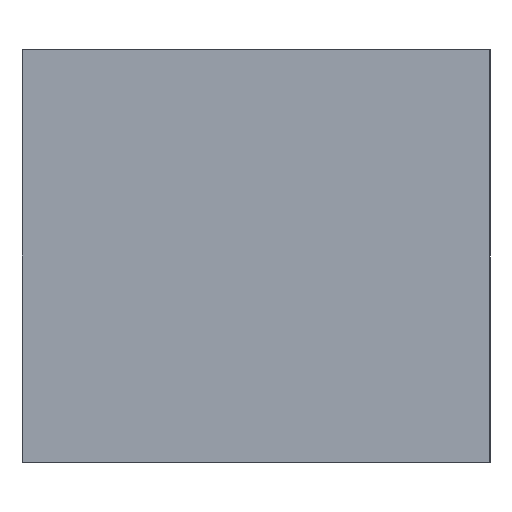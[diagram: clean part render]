
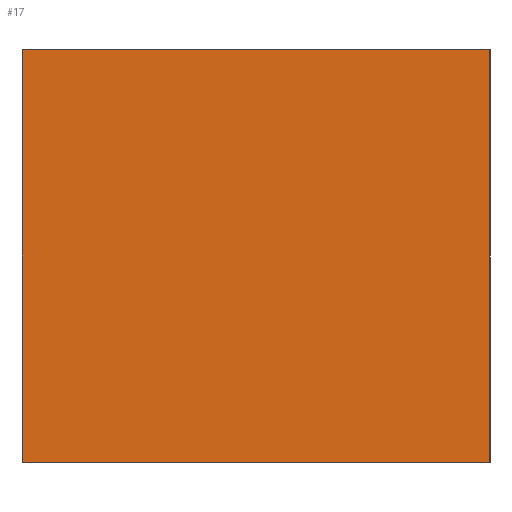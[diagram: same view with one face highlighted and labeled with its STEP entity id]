
A CAD part, left-side view. The second image highlights one B-rep face of the part: STEP entity #17.
In plain terms, the highlighted planar face has unit normal (-1, 0, 0).
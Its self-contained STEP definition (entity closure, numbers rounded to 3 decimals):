
#17 = ADVANCED_FACE('',(#18),#32,.F.);
#18 = FACE_BOUND('',#19,.F.);
#19 = EDGE_LOOP('',(#20,#55,#83,#111));
#20 = ORIENTED_EDGE('',*,*,#21,.F.);
#21 = EDGE_CURVE('',#22,#24,#26,.T.);
#22 = VERTEX_POINT('',#23);
#23 = CARTESIAN_POINT('',(-114.,-17.,4.));
#24 = VERTEX_POINT('',#25);
#25 = CARTESIAN_POINT('',(-114.,-17.,34.));
#26 = SURFACE_CURVE('',#27,(#31,#43),.PCURVE_S1.);
#27 = LINE('',#28,#29);
#28 = CARTESIAN_POINT('',(-114.,-17.,4.));
#29 = VECTOR('',#30,1.);
#30 = DIRECTION('',(0.,0.,1.));
#31 = PCURVE('',#32,#37);
#32 = PLANE('',#33);
#33 = AXIS2_PLACEMENT_3D('',#34,#35,#36);
#34 = CARTESIAN_POINT('',(-114.,-17.,4.));
#35 = DIRECTION('',(1.,0.,0.));
#36 = DIRECTION('',(0.,0.,1.));
#37 = DEFINITIONAL_REPRESENTATION('',(#38),#42);
#38 = LINE('',#39,#40);
#39 = CARTESIAN_POINT('',(0.,0.));
#40 = VECTOR('',#41,1.);
#41 = DIRECTION('',(1.,0.));
#42 = ( GEOMETRIC_REPRESENTATION_CONTEXT(2) 
PARAMETRIC_REPRESENTATION_CONTEXT() REPRESENTATION_CONTEXT('2D SPACE',''
  ) );
#43 = PCURVE('',#44,#49);
#44 = PLANE('',#45);
#45 = AXIS2_PLACEMENT_3D('',#46,#47,#48);
#46 = CARTESIAN_POINT('',(-114.,-17.,4.));
#47 = DIRECTION('',(0.,1.,0.));
#48 = DIRECTION('',(0.,0.,1.));
#49 = DEFINITIONAL_REPRESENTATION('',(#50),#54);
#50 = LINE('',#51,#52);
#51 = CARTESIAN_POINT('',(0.,0.));
#52 = VECTOR('',#53,1.);
#53 = DIRECTION('',(1.,0.));
#54 = ( GEOMETRIC_REPRESENTATION_CONTEXT(2) 
PARAMETRIC_REPRESENTATION_CONTEXT() REPRESENTATION_CONTEXT('2D SPACE',''
  ) );
#55 = ORIENTED_EDGE('',*,*,#56,.T.);
#56 = EDGE_CURVE('',#22,#57,#59,.T.);
#57 = VERTEX_POINT('',#58);
#58 = CARTESIAN_POINT('',(-114.,17.,4.));
#59 = SURFACE_CURVE('',#60,(#64,#71),.PCURVE_S1.);
#60 = LINE('',#61,#62);
#61 = CARTESIAN_POINT('',(-114.,-17.,4.));
#62 = VECTOR('',#63,1.);
#63 = DIRECTION('',(0.,1.,0.));
#64 = PCURVE('',#32,#65);
#65 = DEFINITIONAL_REPRESENTATION('',(#66),#70);
#66 = LINE('',#67,#68);
#67 = CARTESIAN_POINT('',(0.,0.));
#68 = VECTOR('',#69,1.);
#69 = DIRECTION('',(0.,-1.));
#70 = ( GEOMETRIC_REPRESENTATION_CONTEXT(2) 
PARAMETRIC_REPRESENTATION_CONTEXT() REPRESENTATION_CONTEXT('2D SPACE',''
  ) );
#71 = PCURVE('',#72,#77);
#72 = PLANE('',#73);
#73 = AXIS2_PLACEMENT_3D('',#74,#75,#76);
#74 = CARTESIAN_POINT('',(-114.,-17.,4.));
#75 = DIRECTION('',(0.,0.,1.));
#76 = DIRECTION('',(1.,0.,0.));
#77 = DEFINITIONAL_REPRESENTATION('',(#78),#82);
#78 = LINE('',#79,#80);
#79 = CARTESIAN_POINT('',(0.,0.));
#80 = VECTOR('',#81,1.);
#81 = DIRECTION('',(0.,1.));
#82 = ( GEOMETRIC_REPRESENTATION_CONTEXT(2) 
PARAMETRIC_REPRESENTATION_CONTEXT() REPRESENTATION_CONTEXT('2D SPACE',''
  ) );
#83 = ORIENTED_EDGE('',*,*,#84,.T.);
#84 = EDGE_CURVE('',#57,#85,#87,.T.);
#85 = VERTEX_POINT('',#86);
#86 = CARTESIAN_POINT('',(-114.,17.,34.));
#87 = SURFACE_CURVE('',#88,(#92,#99),.PCURVE_S1.);
#88 = LINE('',#89,#90);
#89 = CARTESIAN_POINT('',(-114.,17.,4.));
#90 = VECTOR('',#91,1.);
#91 = DIRECTION('',(0.,0.,1.));
#92 = PCURVE('',#32,#93);
#93 = DEFINITIONAL_REPRESENTATION('',(#94),#98);
#94 = LINE('',#95,#96);
#95 = CARTESIAN_POINT('',(0.,-34.));
#96 = VECTOR('',#97,1.);
#97 = DIRECTION('',(1.,0.));
#98 = ( GEOMETRIC_REPRESENTATION_CONTEXT(2) 
PARAMETRIC_REPRESENTATION_CONTEXT() REPRESENTATION_CONTEXT('2D SPACE',''
  ) );
#99 = PCURVE('',#100,#105);
#100 = PLANE('',#101);
#101 = AXIS2_PLACEMENT_3D('',#102,#103,#104);
#102 = CARTESIAN_POINT('',(-114.,17.,4.));
#103 = DIRECTION('',(0.,1.,0.));
#104 = DIRECTION('',(0.,0.,1.));
#105 = DEFINITIONAL_REPRESENTATION('',(#106),#110);
#106 = LINE('',#107,#108);
#107 = CARTESIAN_POINT('',(0.,0.));
#108 = VECTOR('',#109,1.);
#109 = DIRECTION('',(1.,0.));
#110 = ( GEOMETRIC_REPRESENTATION_CONTEXT(2) 
PARAMETRIC_REPRESENTATION_CONTEXT() REPRESENTATION_CONTEXT('2D SPACE',''
  ) );
#111 = ORIENTED_EDGE('',*,*,#112,.F.);
#112 = EDGE_CURVE('',#24,#85,#113,.T.);
#113 = SURFACE_CURVE('',#114,(#118,#125),.PCURVE_S1.);
#114 = LINE('',#115,#116);
#115 = CARTESIAN_POINT('',(-114.,-17.,34.));
#116 = VECTOR('',#117,1.);
#117 = DIRECTION('',(0.,1.,0.));
#118 = PCURVE('',#32,#119);
#119 = DEFINITIONAL_REPRESENTATION('',(#120),#124);
#120 = LINE('',#121,#122);
#121 = CARTESIAN_POINT('',(30.,0.));
#122 = VECTOR('',#123,1.);
#123 = DIRECTION('',(0.,-1.));
#124 = ( GEOMETRIC_REPRESENTATION_CONTEXT(2) 
PARAMETRIC_REPRESENTATION_CONTEXT() REPRESENTATION_CONTEXT('2D SPACE',''
  ) );
#125 = PCURVE('',#126,#131);
#126 = PLANE('',#127);
#127 = AXIS2_PLACEMENT_3D('',#128,#129,#130);
#128 = CARTESIAN_POINT('',(-114.,-17.,34.));
#129 = DIRECTION('',(0.,0.,1.));
#130 = DIRECTION('',(1.,0.,0.));
#131 = DEFINITIONAL_REPRESENTATION('',(#132),#136);
#132 = LINE('',#133,#134);
#133 = CARTESIAN_POINT('',(0.,0.));
#134 = VECTOR('',#135,1.);
#135 = DIRECTION('',(0.,1.));
#136 = ( GEOMETRIC_REPRESENTATION_CONTEXT(2) 
PARAMETRIC_REPRESENTATION_CONTEXT() REPRESENTATION_CONTEXT('2D SPACE',''
  ) );
